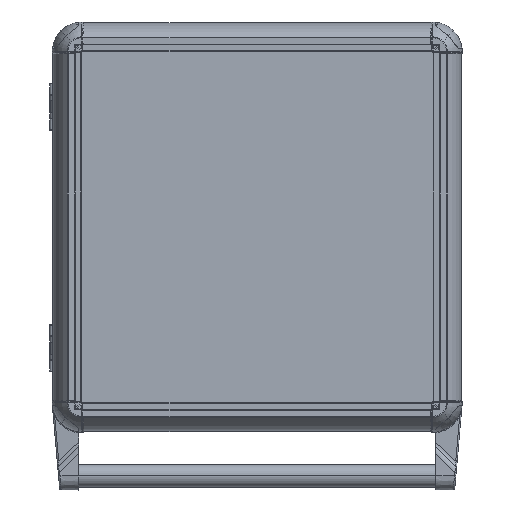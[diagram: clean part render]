
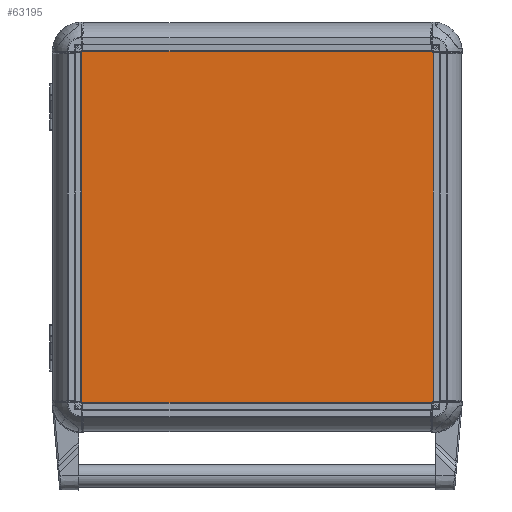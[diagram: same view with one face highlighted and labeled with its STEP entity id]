
A CAD part, top view. The second image highlights one B-rep face of the part: STEP entity #63195.
In plain terms, the highlighted planar face has unit normal (0, 0, 1).
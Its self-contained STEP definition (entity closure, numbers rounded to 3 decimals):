
#1439 = VERTEX_POINT ( 'NONE', #248174 ) ;
#9596 = CARTESIAN_POINT ( 'NONE',  ( -150., 150., 2. ) ) ;
#11294 = AXIS2_PLACEMENT_3D ( 'NONE', #25816, #65147, #82832 ) ;
#15635 = VERTEX_POINT ( 'NONE', #198937 ) ;
#22739 = ORIENTED_EDGE ( 'NONE', *, *, #143021, .T. ) ;
#25816 = CARTESIAN_POINT ( 'NONE',  ( 0., 0., 2. ) ) ;
#27131 = DIRECTION ( 'NONE',  ( 1., 0., 0. ) ) ;
#27997 = EDGE_CURVE ( 'NONE', #1439, #15635, #74342, .T. ) ;
#59975 = VECTOR ( 'NONE', #241772, 1000. ) ;
#63195 = ADVANCED_FACE ( 'NONE', ( #123575 ), #66488, .T. ) ;
#65147 = DIRECTION ( 'NONE',  ( 0., 0., 1. ) ) ;
#66488 = PLANE ( 'NONE',  #11294 ) ;
#69374 = EDGE_CURVE ( 'NONE', #15635, #246580, #246228, .T. ) ;
#74342 = LINE ( 'NONE', #134072, #207367 ) ;
#82832 = DIRECTION ( 'NONE',  ( 1., 0., 0. ) ) ;
#95212 = LINE ( 'NONE', #237774, #59975 ) ;
#103030 = CARTESIAN_POINT ( 'NONE',  ( -150., -150., 2. ) ) ;
#106346 = DIRECTION ( 'NONE',  ( -1., 0., 0. ) ) ;
#123575 = FACE_OUTER_BOUND ( 'NONE', #128364, .T. ) ;
#127599 = CARTESIAN_POINT ( 'NONE',  ( -150., -150., 2. ) ) ;
#128364 = EDGE_LOOP ( 'NONE', ( #172202, #255489, #22739, #211465 ) ) ;
#134072 = CARTESIAN_POINT ( 'NONE',  ( 150., 150., 2. ) ) ;
#139138 = VECTOR ( 'NONE', #106346, 1000. ) ;
#143021 = EDGE_CURVE ( 'NONE', #246580, #257907, #95212, .T. ) ;
#172202 = ORIENTED_EDGE ( 'NONE', *, *, #27997, .T. ) ;
#173620 = DIRECTION ( 'NONE',  ( 0., 1., 0. ) ) ;
#198937 = CARTESIAN_POINT ( 'NONE',  ( 150., 150., 2. ) ) ;
#207367 = VECTOR ( 'NONE', #173620, 1000. ) ;
#209111 = LINE ( 'NONE', #127599, #261550 ) ;
#211465 = ORIENTED_EDGE ( 'NONE', *, *, #224191, .T. ) ;
#224191 = EDGE_CURVE ( 'NONE', #257907, #1439, #209111, .T. ) ;
#228604 = CARTESIAN_POINT ( 'NONE',  ( -150., 150., 2. ) ) ;
#237774 = CARTESIAN_POINT ( 'NONE',  ( -150., 150., 2. ) ) ;
#241772 = DIRECTION ( 'NONE',  ( 0., -1., 0. ) ) ;
#246228 = LINE ( 'NONE', #228604, #139138 ) ;
#246580 = VERTEX_POINT ( 'NONE', #9596 ) ;
#248174 = CARTESIAN_POINT ( 'NONE',  ( 150., -150., 2. ) ) ;
#255489 = ORIENTED_EDGE ( 'NONE', *, *, #69374, .T. ) ;
#257907 = VERTEX_POINT ( 'NONE', #103030 ) ;
#261550 = VECTOR ( 'NONE', #27131, 1000. ) ;
